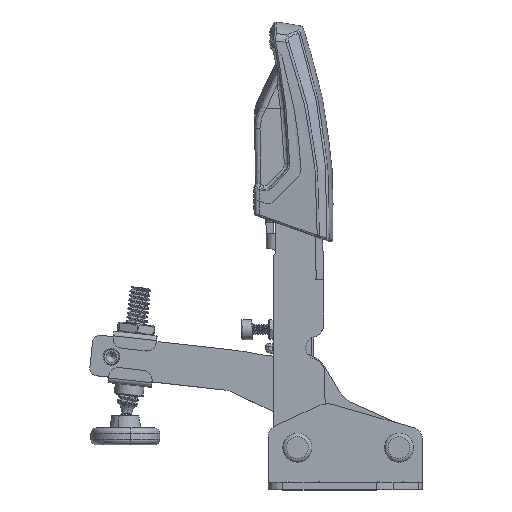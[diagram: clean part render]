
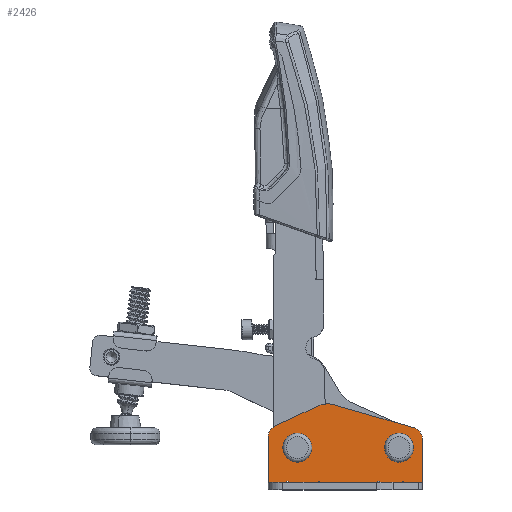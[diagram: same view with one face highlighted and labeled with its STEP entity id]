
A CAD part, top view. The second image highlights one B-rep face of the part: STEP entity #2426.
In plain terms, the highlighted planar face has unit normal (0, 0, 1).
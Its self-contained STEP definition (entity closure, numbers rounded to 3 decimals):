
#1778=CARTESIAN_POINT('',(5.64,0.,9.6));
#1779=VERTEX_POINT('',#1778);
#1786=CARTESIAN_POINT('',(5.64,2.,9.6));
#1787=VERTEX_POINT('',#1786);
#1788=CARTESIAN_POINT('',(5.64,0.,9.6));
#1789=DIRECTION('',(0.,1.,0.));
#1790=VECTOR('',#1789,2.);
#1791=LINE('',#1788,#1790);
#1792=EDGE_CURVE('',#1779,#1787,#1791,.T.);
#1816=CARTESIAN_POINT('',(13.64,0.,9.6));
#1817=VERTEX_POINT('',#1816);
#1824=CARTESIAN_POINT('',(13.64,0.,9.6));
#1825=DIRECTION('',(-1.,0.,0.));
#1826=VECTOR('',#1825,8.);
#1827=LINE('',#1824,#1826);
#1828=EDGE_CURVE('',#1817,#1779,#1827,.T.);
#1847=CARTESIAN_POINT('',(13.64,2.,9.6));
#1848=VERTEX_POINT('',#1847);
#1855=CARTESIAN_POINT('',(13.64,2.,9.6));
#1856=DIRECTION('',(0.,-1.,0.));
#1857=VECTOR('',#1856,2.);
#1858=LINE('',#1855,#1857);
#1859=EDGE_CURVE('',#1848,#1817,#1858,.T.);
#1880=CARTESIAN_POINT('',(30.76,0.,9.6));
#1881=VERTEX_POINT('',#1880);
#1888=CARTESIAN_POINT('',(30.76,2.,9.6));
#1889=VERTEX_POINT('',#1888);
#1890=CARTESIAN_POINT('',(30.76,0.,9.6));
#1891=DIRECTION('',(0.,1.,0.));
#1892=VECTOR('',#1891,2.);
#1893=LINE('',#1890,#1892);
#1894=EDGE_CURVE('',#1881,#1889,#1893,.T.);
#1918=CARTESIAN_POINT('',(36.76,0.,9.6));
#1919=VERTEX_POINT('',#1918);
#1926=CARTESIAN_POINT('',(36.76,0.,9.6));
#1927=DIRECTION('',(-1.,0.,0.));
#1928=VECTOR('',#1927,6.);
#1929=LINE('',#1926,#1928);
#1930=EDGE_CURVE('',#1919,#1881,#1929,.T.);
#1949=CARTESIAN_POINT('',(36.76,2.,9.6));
#1950=VERTEX_POINT('',#1949);
#1957=CARTESIAN_POINT('',(36.76,2.,9.6));
#1958=DIRECTION('',(0.,-1.,0.));
#1959=VECTOR('',#1958,2.);
#1960=LINE('',#1957,#1959);
#1961=EDGE_CURVE('',#1950,#1919,#1960,.T.);
#1982=CARTESIAN_POINT('',(42.4,14.162,9.6));
#1983=VERTEX_POINT('',#1982);
#1990=CARTESIAN_POINT('',(42.4,2.,9.6));
#1991=VERTEX_POINT('',#1990);
#1992=CARTESIAN_POINT('',(42.4,14.162,9.6));
#1993=DIRECTION('',(0.,-1.,0.));
#1994=VECTOR('',#1993,12.162);
#1995=LINE('',#1992,#1994);
#1996=EDGE_CURVE('',#1983,#1991,#1995,.T.);
#2021=CARTESIAN_POINT('',(40.227,17.046,9.6));
#2022=VERTEX_POINT('',#2021);
#2029=CARTESIAN_POINT('',(39.4,14.162,9.6));
#2030=DIRECTION('',(0.276,0.961,0.));
#2031=DIRECTION('',(0.,0.,-1.));
#2032=AXIS2_PLACEMENT_3D('',#2029,#2031,#2030);
#2033=CIRCLE('',#2032,3.);
#2034=EDGE_CURVE('',#2022,#1983,#2033,.T.);
#2053=CARTESIAN_POINT('',(17.938,23.437,9.6));
#2054=VERTEX_POINT('',#2053);
#2061=CARTESIAN_POINT('',(17.938,23.437,9.6));
#2062=DIRECTION('',(0.961,-0.276,0.));
#2063=VECTOR('',#2062,23.187);
#2064=LINE('',#2061,#2063);
#2065=EDGE_CURVE('',#2054,#2022,#2064,.T.);
#2085=CARTESIAN_POINT('',(13.748,23.107,9.6));
#2086=VERTEX_POINT('',#2085);
#2093=CARTESIAN_POINT('',(16.284,17.67,9.6));
#2094=DIRECTION('',(-0.423,0.906,0.));
#2095=DIRECTION('',(0.,0.,-1.));
#2096=AXIS2_PLACEMENT_3D('',#2093,#2095,#2094);
#2097=CIRCLE('',#2096,6.);
#2098=EDGE_CURVE('',#2086,#2054,#2097,.T.);
#2117=CARTESIAN_POINT('',(1.732,17.504,9.6));
#2118=VERTEX_POINT('',#2117);
#2125=CARTESIAN_POINT('',(1.732,17.504,9.6));
#2126=DIRECTION('',(0.906,0.423,0.));
#2127=VECTOR('',#2126,13.258);
#2128=LINE('',#2125,#2127);
#2129=EDGE_CURVE('',#2118,#2086,#2128,.T.);
#2149=CARTESIAN_POINT('',(0.,14.785,9.6));
#2150=VERTEX_POINT('',#2149);
#2157=CARTESIAN_POINT('',(3.,14.785,9.6));
#2158=DIRECTION('',(-1.,0.,0.));
#2159=DIRECTION('',(0.,0.,-1.));
#2160=AXIS2_PLACEMENT_3D('',#2157,#2159,#2158);
#2161=CIRCLE('',#2160,3.);
#2162=EDGE_CURVE('',#2150,#2118,#2161,.T.);
#2181=CARTESIAN_POINT('',(0.,2.,9.6));
#2182=VERTEX_POINT('',#2181);
#2189=CARTESIAN_POINT('',(0.,2.,9.6));
#2190=DIRECTION('',(0.,1.,0.));
#2191=VECTOR('',#2190,12.785);
#2192=LINE('',#2189,#2191);
#2193=EDGE_CURVE('',#2182,#2150,#2192,.T.);
#2213=CARTESIAN_POINT('',(39.05,11.6,9.6));
#2214=VERTEX_POINT('',#2213);
#2221=CARTESIAN_POINT('',(36.,11.6,9.6));
#2222=DIRECTION('',(1.,0.,0.));
#2223=DIRECTION('',(0.,0.,1.));
#2224=AXIS2_PLACEMENT_3D('',#2221,#2223,#2222);
#2225=CIRCLE('',#2224,3.05);
#2226=EDGE_CURVE('',#2214,#2214,#2225,.T.);
#2246=CARTESIAN_POINT('',(11.05,11.6,9.6));
#2247=VERTEX_POINT('',#2246);
#2254=CARTESIAN_POINT('',(8.,11.6,9.6));
#2255=DIRECTION('',(1.,0.,0.));
#2256=DIRECTION('',(0.,0.,1.));
#2257=AXIS2_PLACEMENT_3D('',#2254,#2256,#2255);
#2258=CIRCLE('',#2257,3.05);
#2259=EDGE_CURVE('',#2247,#2247,#2258,.T.);
#2346=CARTESIAN_POINT('',(21.2,21.2,9.6));
#2347=DIRECTION('',(1.,0.,0.));
#2348=DIRECTION('',(0.,0.,1.));
#2349=AXIS2_PLACEMENT_3D('',#2346,#2348,#2347);
#2350=PLANE('',#2349);
#2351=CARTESIAN_POINT('',(4.89,2.,9.6));
#2352=VERTEX_POINT('',#2351);
#2353=CARTESIAN_POINT('',(0.,2.,9.6));
#2354=DIRECTION('',(1.,0.,0.));
#2355=VECTOR('',#2354,4.89);
#2356=LINE('',#2353,#2355);
#2357=EDGE_CURVE('',#2182,#2352,#2356,.T.);
#2358=ORIENTED_EDGE('',*,*,#2357,.T.);
#2359=CARTESIAN_POINT('',(5.265,2.,9.6));
#2360=DIRECTION('',(-1.,0.,0.));
#2361=DIRECTION('',(0.,0.,-1.));
#2362=AXIS2_PLACEMENT_3D('',#2359,#2361,#2360);
#2363=CIRCLE('',#2362,0.375);
#2364=EDGE_CURVE('',#2352,#1787,#2363,.T.);
#2365=ORIENTED_EDGE('',*,*,#2364,.T.);
#2366=ORIENTED_EDGE('',*,*,#1792,.F.);
#2367=ORIENTED_EDGE('',*,*,#1828,.F.);
#2368=ORIENTED_EDGE('',*,*,#1859,.F.);
#2369=CARTESIAN_POINT('',(14.39,2.,9.6));
#2370=VERTEX_POINT('',#2369);
#2371=CARTESIAN_POINT('',(14.015,2.,9.6));
#2372=DIRECTION('',(-1.,0.,0.));
#2373=DIRECTION('',(0.,0.,-1.));
#2374=AXIS2_PLACEMENT_3D('',#2371,#2373,#2372);
#2375=CIRCLE('',#2374,0.375);
#2376=EDGE_CURVE('',#1848,#2370,#2375,.T.);
#2377=ORIENTED_EDGE('',*,*,#2376,.T.);
#2378=CARTESIAN_POINT('',(30.01,2.,9.6));
#2379=VERTEX_POINT('',#2378);
#2380=CARTESIAN_POINT('',(14.39,2.,9.6));
#2381=DIRECTION('',(1.,0.,0.));
#2382=VECTOR('',#2381,15.62);
#2383=LINE('',#2380,#2382);
#2384=EDGE_CURVE('',#2370,#2379,#2383,.T.);
#2385=ORIENTED_EDGE('',*,*,#2384,.T.);
#2386=CARTESIAN_POINT('',(30.385,2.,9.6));
#2387=DIRECTION('',(-1.,0.,0.));
#2388=DIRECTION('',(0.,0.,-1.));
#2389=AXIS2_PLACEMENT_3D('',#2386,#2388,#2387);
#2390=CIRCLE('',#2389,0.375);
#2391=EDGE_CURVE('',#2379,#1889,#2390,.T.);
#2392=ORIENTED_EDGE('',*,*,#2391,.T.);
#2393=ORIENTED_EDGE('',*,*,#1894,.F.);
#2394=ORIENTED_EDGE('',*,*,#1930,.F.);
#2395=ORIENTED_EDGE('',*,*,#1961,.F.);
#2396=CARTESIAN_POINT('',(37.51,2.,9.6));
#2397=VERTEX_POINT('',#2396);
#2398=CARTESIAN_POINT('',(37.135,2.,9.6));
#2399=DIRECTION('',(-1.,0.,0.));
#2400=DIRECTION('',(0.,0.,-1.));
#2401=AXIS2_PLACEMENT_3D('',#2398,#2400,#2399);
#2402=CIRCLE('',#2401,0.375);
#2403=EDGE_CURVE('',#1950,#2397,#2402,.T.);
#2404=ORIENTED_EDGE('',*,*,#2403,.T.);
#2405=CARTESIAN_POINT('',(37.51,2.,9.6));
#2406=DIRECTION('',(1.,0.,0.));
#2407=VECTOR('',#2406,4.89);
#2408=LINE('',#2405,#2407);
#2409=EDGE_CURVE('',#2397,#1991,#2408,.T.);
#2410=ORIENTED_EDGE('',*,*,#2409,.T.);
#2411=ORIENTED_EDGE('',*,*,#1996,.F.);
#2412=ORIENTED_EDGE('',*,*,#2034,.F.);
#2413=ORIENTED_EDGE('',*,*,#2065,.F.);
#2414=ORIENTED_EDGE('',*,*,#2098,.F.);
#2415=ORIENTED_EDGE('',*,*,#2129,.F.);
#2416=ORIENTED_EDGE('',*,*,#2162,.F.);
#2417=ORIENTED_EDGE('',*,*,#2193,.F.);
#2418=EDGE_LOOP('',(#2358,#2365,#2366,#2367,#2368,#2377,#2385,#2392,#2393,#2394,#2395,#2404,#2410,#2411,#2412,#2413,#2414,#2415,#2416,#2417));
#2419=FACE_OUTER_BOUND('',#2418,.T.);
#2420=ORIENTED_EDGE('',*,*,#2259,.F.);
#2421=EDGE_LOOP('',(#2420));
#2422=FACE_BOUND('',#2421,.T.);
#2423=ORIENTED_EDGE('',*,*,#2226,.F.);
#2424=EDGE_LOOP('',(#2423));
#2425=FACE_BOUND('',#2424,.T.);
#2426=ADVANCED_FACE('',(#2419,#2422,#2425),#2350,.T.);
